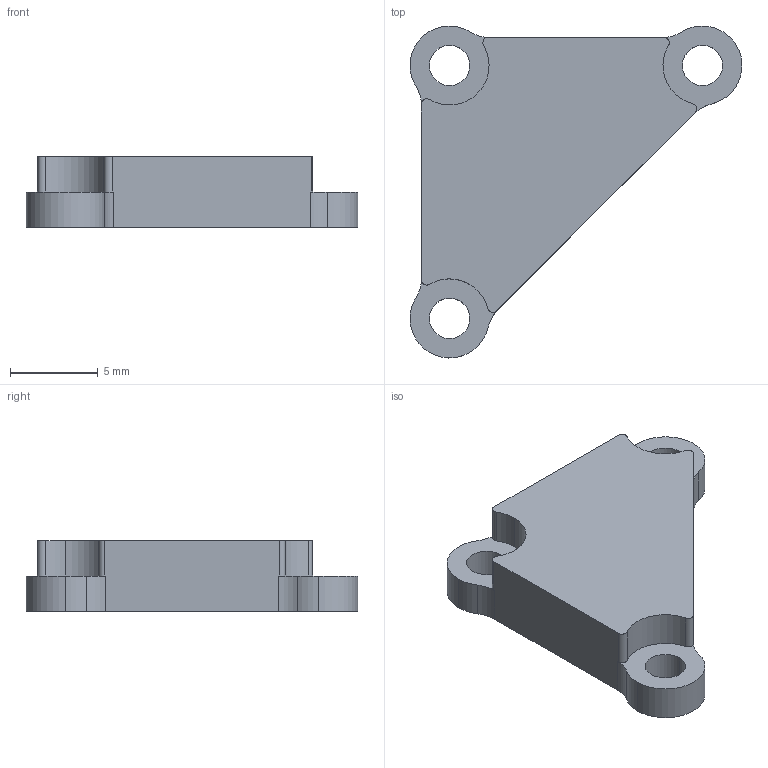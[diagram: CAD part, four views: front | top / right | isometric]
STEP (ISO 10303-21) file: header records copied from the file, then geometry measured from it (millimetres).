
FILE_DESCRIPTION (( 'STEP AP214' ), '1' );
FILE_NAME ('揤啣.STEP', '2026-07-16T07:50:16', ( '' ), ( '' ), 'SwSTEP 2.0', 'SolidWorks 2024', '' );
FILE_SCHEMA (( 'AUTOMOTIVE_DESIGN' ));
Length unit declared in the file: millimetre
Products named in the file (1): 压板
Bounding box: 18.9 x 18.9 x 4 mm (x, y, z)
Volume: 689.2 mm3; surface area: 660.2 mm2
Topology: 1 solids, 1 shells, 37 faces, 105 edges, 70 vertices
Faces by surface type: cylinder 29, plane 8
Entity records: 1272 total; most frequent: DIRECTION 239, CARTESIAN_POINT 213, ORIENTED_EDGE 210, EDGE_CURVE 105, AXIS2_PLACEMENT_3D 96, VERTEX_POINT 70, CIRCLE 58, VECTOR 47
